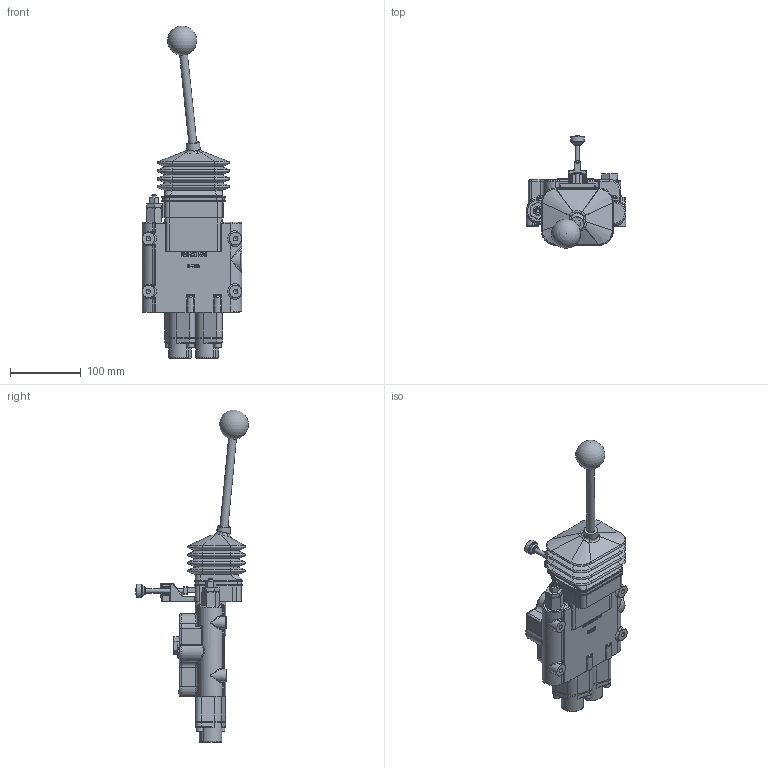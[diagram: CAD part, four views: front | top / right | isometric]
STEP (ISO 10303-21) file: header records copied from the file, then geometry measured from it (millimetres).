
FILE_DESCRIPTION((''),'2;1');
FILE_NAME('C:\Vault\Workspace\z_ShellModels\LV_LS30_RD25_RD41\LVS1CGR5A1_Shell.stp','2012-03-19T10:19:52',('PetersW'),(''),'Autodesk Inventor 2012','Autodesk Inventor 2012','');
FILE_SCHEMA(('AUTOMOTIVE_DESIGN { 1 0 10303 214 1 1 1 1 }'));
Length unit declared in the file: inch
Products named in the file (1): Part3
Bounding box: 140.51 x 159.08 x 468.72 mm (x, y, z)
Volume: 1516310.1 mm3; surface area: 231834.1 mm2
Topology: 2 solids, 36 shells, 1634 faces, 3952 edges, 2413 vertices
Faces by surface type: plane 644, cylinder 369, bspline 309, cone 167, torus 136, sphere 9
Full cylindrical faces by diameter (mm): 3.302 x2, 3.759 x1, 4.75 x4, 4.978 x10, 5.067 x1, 5.283 x2, 5.556 x1, 5.944 x1, 6.096 x1, 6.35 x6, 6.401 x3, 6.528 x1, 6.731 x12, 6.858 x1, 6.909 x3, 7.137 x1, 7.925 x1, 7.938 x1, 7.988 x2, 9.525 x5, 11.112 x1, 11.125 x3, 12.23 x2, 12.929 x2, 13.462 x3, 15.875 x3, 15.9 x3, 16.764 x3, 17.066 x5, 17.475 x4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
Entity records: 54681 total; most frequent: CARTESIAN_POINT 18491, ORIENTED_EDGE 7202, DIRECTION 6636, EDGE_CURVE 3601, AXIS2_PLACEMENT_3D 2508, VERTEX_POINT 2308, EDGE_LOOP 1938, FACE_OUTER_BOUND 1633
